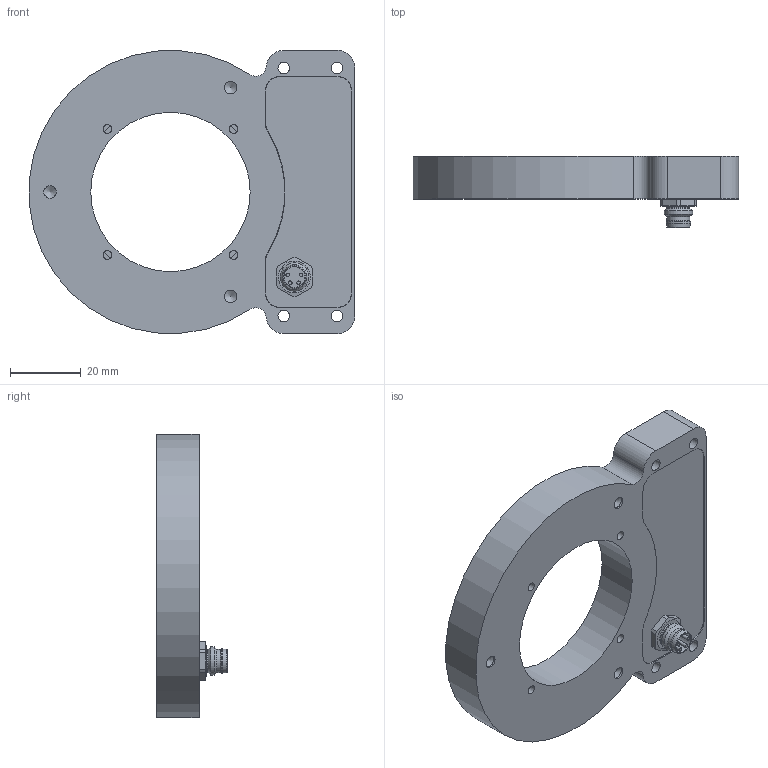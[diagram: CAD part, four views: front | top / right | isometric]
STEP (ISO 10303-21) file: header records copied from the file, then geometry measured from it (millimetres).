
FILE_DESCRIPTION (( 'STEP AP214' ), '1' );
FILE_NAME ('02163.01 Basisbaugruppe SRL-07 Step17082020.STEP', '2020-08-17T09:30:20', ( '' ), ( '' ), 'SwSTEP 2.0', 'SolidWorks 2013', '' );
FILE_SCHEMA (( 'AUTOMOTIVE_DESIGN' ));
Length unit declared in the file: millimetre
Products named in the file (1): 02163.01 Basisbaugruppe SRL-07 Step17082020
Bounding box: 91.85 x 20 x 80 mm (x, y, z)
Surface area: 19634.6 mm2 (no closed solid volume)
Topology: 0 solids, 8 shells, 89 faces, 238 edges, 164 vertices
Faces by surface type: cylinder 50, plane 29, cone 8, bspline 2
Full cylindrical faces by diameter (mm): 1 x4, 2.5 x4, 3.3 x4, 3.5 x3, 5.8 x1, 6.5 x2, 6.9 x1, 8 x1, 45 x1, 46.6 x1, 47 x1, 53 x1, 72 x1, 78 x1, 78.4 x1
Entity records: 4224 total; most frequent: CARTESIAN_POINT 1177, DIRECTION 457, ORIENTED_EDGE 315, AXIS2_PLACEMENT_3D 197, EDGE_CURVE 187, VERTEX_POINT 150, EDGE_LOOP 150, FACE_OUTER_BOUND 118
